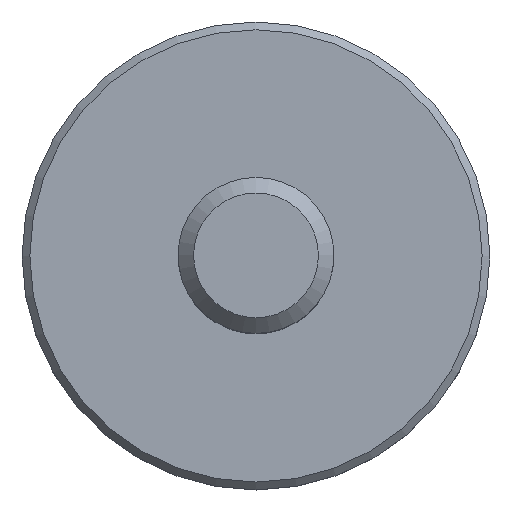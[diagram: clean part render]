
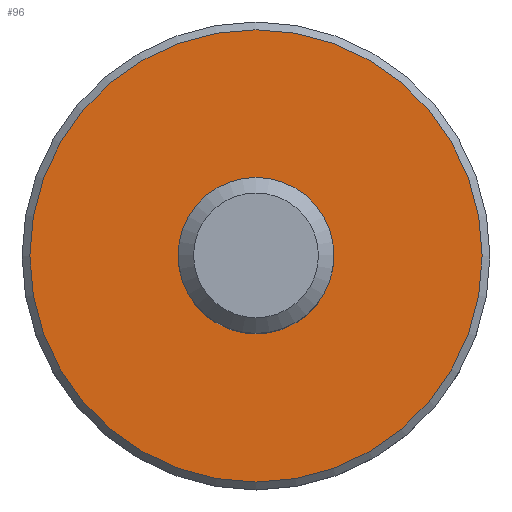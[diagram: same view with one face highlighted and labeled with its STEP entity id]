
A CAD part, top view. The second image highlights one B-rep face of the part: STEP entity #96.
In plain terms, the highlighted planar face has unit normal (0, 0, 1) as drawn and (0, 1, 0) by its records, which use the part's own axes.
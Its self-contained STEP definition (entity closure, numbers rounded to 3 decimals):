
#96=ADVANCED_FACE('',(#167,#168),#169,.F.);
#167=FACE_BOUND('',#227,.T.);
#168=FACE_OUTER_BOUND('',#228,.T.);
#169=PLANE('',#229);
#227=EDGE_LOOP('',(#285));
#228=EDGE_LOOP('',(#286));
#229=AXIS2_PLACEMENT_3D('',#287,#288,#289);
#285=ORIENTED_EDGE('',*,*,#339,.T.);
#286=ORIENTED_EDGE('',*,*,#340,.F.);
#287=CARTESIAN_POINT('',(-44.642,10.849,18.753));
#288=DIRECTION('',(0.0,-1.0,0.));
#289=DIRECTION('',(0.0,0.,-1.0));
#339=EDGE_CURVE('',#369,#369,#370,.T.);
#340=EDGE_CURVE('',#371,#371,#372,.T.);
#369=VERTEX_POINT('',#403);
#370=CIRCLE('',#404,5.0);
#371=VERTEX_POINT('',#405);
#372=CIRCLE('',#406,14.5);
#403=CARTESIAN_POINT('',(-39.642,10.849,18.753));
#404=AXIS2_PLACEMENT_3D('',#438,#439,#440);
#405=CARTESIAN_POINT('',(-44.642,10.849,4.253));
#406=AXIS2_PLACEMENT_3D('',#441,#442,#443);
#438=CARTESIAN_POINT('',(-44.642,10.849,18.753));
#439=DIRECTION('',(0.0,-1.0,0.0));
#440=DIRECTION('',(1.0,0.0,0.0));
#441=CARTESIAN_POINT('',(-44.642,10.849,18.753));
#442=DIRECTION('',(0.0,-1.0,0.));
#443=DIRECTION('',(0.0,0.,-1.0));
